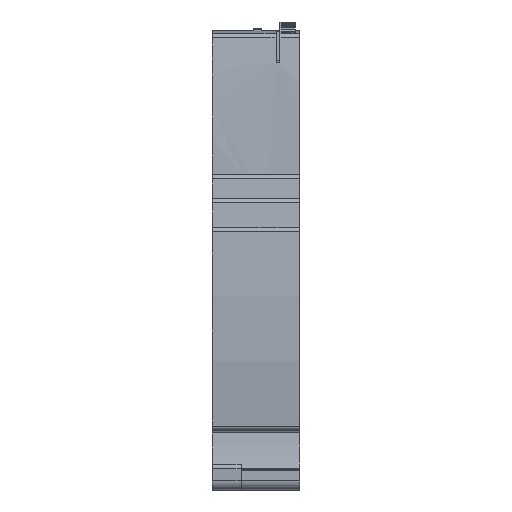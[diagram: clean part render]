
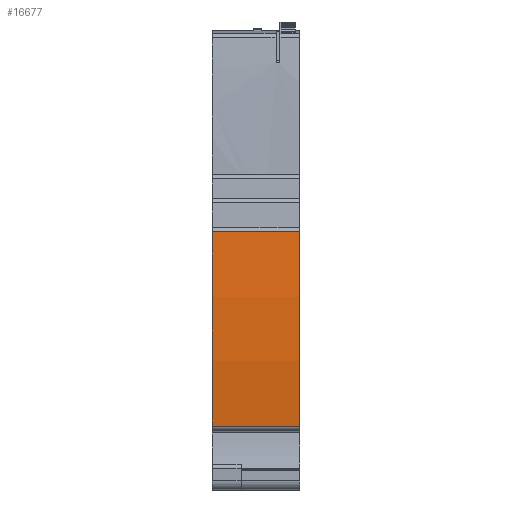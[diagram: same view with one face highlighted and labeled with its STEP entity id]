
A CAD part, front view. The second image highlights one B-rep face of the part: STEP entity #16677.
In plain terms, the highlighted cylindrical face has radius 202 mm (diameter 404 mm), a partial arc.
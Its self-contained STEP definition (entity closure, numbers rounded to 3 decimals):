
#2216=AXIS2_PLACEMENT_3D('Circle Axis2P3D',#2214,#2215,$) ;
#3154=AXIS2_PLACEMENT_3D('Circle Axis2P3D',#3152,#3153,$) ;
#16669=AXIS2_PLACEMENT_3D('Cylinder Axis2P3D',#16666,#16667,#16668) ;
#2211=CARTESIAN_POINT('Vertex',(0.,1.531,13.327)) ;
#2214=CARTESIAN_POINT('Axis2P3D Location',(0.,202.,38.15)) ;
#2218=CARTESIAN_POINT('Vertex',(0.,0.609,53.828)) ;
#2683=CARTESIAN_POINT('Line Origine',(1.94,0.609,53.828)) ;
#2687=CARTESIAN_POINT('Vertex',(18.15,0.609,53.828)) ;
#3152=CARTESIAN_POINT('Axis2P3D Location',(18.15,202.,38.15)) ;
#3156=CARTESIAN_POINT('Vertex',(18.15,1.531,13.327)) ;
#16653=CARTESIAN_POINT('Line Origine',(2.39,1.531,13.327)) ;
#16666=CARTESIAN_POINT('Axis2P3D Location',(2.55,202.,38.15)) ;
#2215=DIRECTION('Axis2P3D Direction',(1.,0.,0.)) ;
#2684=DIRECTION('Vector Direction',(1.,0.,0.)) ;
#3153=DIRECTION('Axis2P3D Direction',(1.,0.,0.)) ;
#16654=DIRECTION('Vector Direction',(1.,0.,0.)) ;
#16667=DIRECTION('Axis2P3D Direction',(1.,0.,0.)) ;
#16668=DIRECTION('Axis2P3D XDirection',(0.,-0.997,0.082)) ;
#2685=VECTOR('Line Direction',#2684,1.) ;
#16655=VECTOR('Line Direction',#16654,1.) ;
#16672=ORIENTED_EDGE('',*,*,#2220,.T.) ;
#16673=ORIENTED_EDGE('',*,*,#16657,.F.) ;
#16674=ORIENTED_EDGE('',*,*,#3158,.F.) ;
#16675=ORIENTED_EDGE('',*,*,#2689,.T.) ;
#16677=ADVANCED_FACE('KLEMME',(#16676),#16670,.T.) ;
#2217=CIRCLE('generated circle',#2216,202.) ;
#3155=CIRCLE('generated circle',#3154,202.) ;
#16670=CYLINDRICAL_SURFACE('generated cylinder',#16669,202.) ;
#2220=EDGE_CURVE('',#2219,#2212,#2217,.T.) ;
#2689=EDGE_CURVE('',#2688,#2219,#2686,.F.) ;
#3158=EDGE_CURVE('',#2688,#3157,#3155,.T.) ;
#16657=EDGE_CURVE('',#3157,#2212,#16656,.F.) ;
#16671=EDGE_LOOP('',(#16672,#16673,#16674,#16675)) ;
#16676=FACE_OUTER_BOUND('',#16671,.T.) ;
#2686=LINE('Line',#2683,#2685) ;
#16656=LINE('Line',#16653,#16655) ;
#2212=VERTEX_POINT('',#2211) ;
#2219=VERTEX_POINT('',#2218) ;
#2688=VERTEX_POINT('',#2687) ;
#3157=VERTEX_POINT('',#3156) ;
